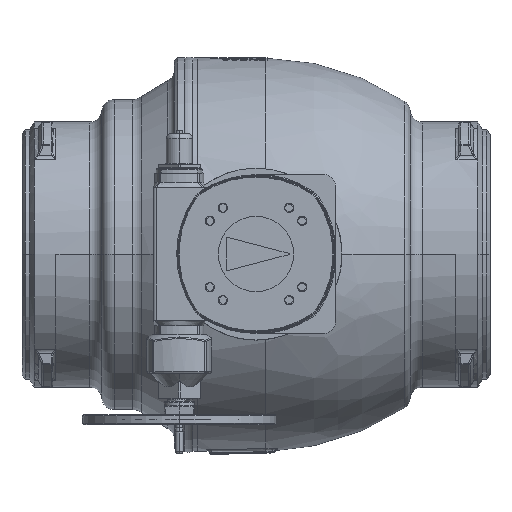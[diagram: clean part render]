
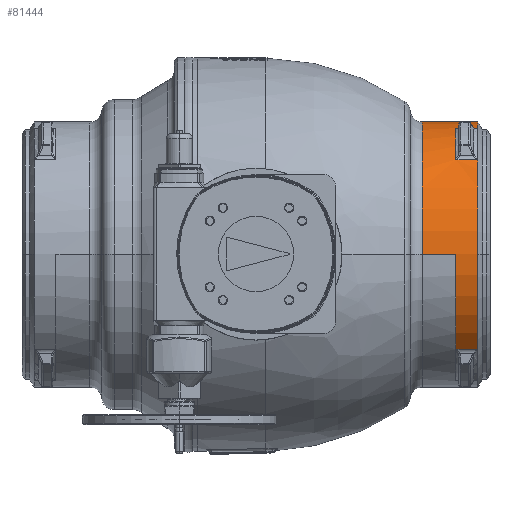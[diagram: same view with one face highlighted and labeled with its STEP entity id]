
A CAD part, top view. The second image highlights one B-rep face of the part: STEP entity #81444.
In plain terms, the highlighted cylindrical face has radius 432 mm (diameter 864 mm), a partial arc.
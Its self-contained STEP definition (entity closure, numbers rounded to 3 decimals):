
#18340=CARTESIAN_POINT('',(722.278,0.,0.));
#18341=DIRECTION('',(-1.,0.,0.));
#18342=DIRECTION('',(0.,0.,1.));
#18343=AXIS2_PLACEMENT_3D('',#18340,#18341,#18342);
#18345=DIRECTION('',(-1.,0.,0.));
#18346=VECTOR('',#18345,71.238);
#18347=CARTESIAN_POINT('',(722.238,-308.937,
301.964));
#18348=LINE('',#18347,#18346);
#18349=CARTESIAN_POINT('',(541.693,0.,0.));
#18350=DIRECTION('',(1.,0.,0.));
#18351=DIRECTION('',(0.,0.,-1.));
#18352=AXIS2_PLACEMENT_3D('',#18349,#18350,#18351);
#18354=DIRECTION('',(-1.,0.,0.));
#18355=VECTOR('',#18354,71.238);
#18356=CARTESIAN_POINT('',(722.238,92.061,
-422.077));
#18357=LINE('',#18356,#18355);
#18358=DIRECTION('',(-1.,0.,0.));
#18359=VECTOR('',#18358,71.238);
#18360=CARTESIAN_POINT('',(722.238,308.937,301.964));
#18361=LINE('',#18360,#18359);
#18362=DIRECTION('',(-1.,0.,0.));
#18363=VECTOR('',#18362,71.238);
#18364=CARTESIAN_POINT('',(722.238,411.56,131.311));
#18365=LINE('',#18364,#18363);
#18371=DIRECTION('',(-1.,0.,0.));
#18372=VECTOR('',#18371,0.04);
#18373=CARTESIAN_POINT('',(722.278,0.,-432.));
#18374=LINE('',#18373,#18372);
#18379=DIRECTION('',(-1.,0.,0.));
#18380=VECTOR('',#18379,109.307);
#18381=CARTESIAN_POINT('',(651.,0.,-432.));
#18382=LINE('',#18381,#18380);
#18388=DIRECTION('',(-1.,0.,0.));
#18389=VECTOR('',#18388,109.307);
#18390=CARTESIAN_POINT('',(651.,0.,432.));
#18391=LINE('',#18390,#18389);
#18392=CARTESIAN_POINT('',(651.,0.,0.));
#18393=DIRECTION('',(-1.,0.,0.));
#18394=DIRECTION('',(0.,-0.715,0.699));
#18395=AXIS2_PLACEMENT_3D('',#18392,#18393,#18394);
#18401=CARTESIAN_POINT('',(722.238,0.,0.));
#18402=DIRECTION('',(1.,0.,0.));
#18403=DIRECTION('',(0.,0.,1.));
#18404=AXIS2_PLACEMENT_3D('',#18401,#18402,#18403);
#18406=DIRECTION('',(-1.,0.,0.));
#18407=VECTOR('',#18406,0.04);
#18408=CARTESIAN_POINT('',(722.278,0.,432.));
#18409=LINE('',#18408,#18407);
#18463=CARTESIAN_POINT('',(722.238,0.,0.));
#18464=DIRECTION('',(1.,0.,0.));
#18465=DIRECTION('',(0.,0.,-1.));
#18466=AXIS2_PLACEMENT_3D('',#18463,#18464,#18465);
#18814=CARTESIAN_POINT('',(722.238,92.061,
-422.077));
#18968=CARTESIAN_POINT('',(651.,92.061,-422.077));
#18970=CARTESIAN_POINT('',(651.,0.,0.));
#18971=DIRECTION('',(-1.,0.,0.));
#18972=DIRECTION('',(0.,0.213,-0.977));
#18973=AXIS2_PLACEMENT_3D('',#18970,#18971,#18972);
#44907=CARTESIAN_POINT('',(722.238,308.937,301.964));
#44969=CARTESIAN_POINT('',(651.,308.937,301.964));
#44971=CARTESIAN_POINT('',(651.,0.,0.));
#44972=DIRECTION('',(-1.,0.,0.));
#44973=DIRECTION('',(0.,0.715,0.699));
#44974=AXIS2_PLACEMENT_3D('',#44971,#44972,#44973);
#45120=CARTESIAN_POINT('',(651.,411.56,131.311));
#45236=CARTESIAN_POINT('',(722.238,411.56,131.311));
#45238=CARTESIAN_POINT('',(722.238,0.,0.));
#45239=DIRECTION('',(1.,0.,0.));
#45240=DIRECTION('',(0.,0.953,0.304));
#45241=AXIS2_PLACEMENT_3D('',#45238,#45239,#45240);
#46285=CARTESIAN_POINT('',(541.693,0.,432.));
#46286=CARTESIAN_POINT('',(541.693,0.,-432.));
#46287=VERTEX_POINT('',#46285);
#46288=VERTEX_POINT('',#46286);
#46313=CARTESIAN_POINT('',(722.278,0.,432.));
#46314=CARTESIAN_POINT('',(722.278,0.,-432.));
#46315=VERTEX_POINT('',#46313);
#46316=VERTEX_POINT('',#46314);
#46365=CARTESIAN_POINT('',(651.,0.,-432.));
#46366=VERTEX_POINT('',#46365);
#46367=CARTESIAN_POINT('',(651.,0.,432.));
#46368=VERTEX_POINT('',#46367);
#46369=CARTESIAN_POINT('',(651.,-308.937,301.964));
#46370=VERTEX_POINT('',#46369);
#46371=CARTESIAN_POINT('',(722.238,0.,432.));
#46372=CARTESIAN_POINT('',(722.238,-308.937,
301.964));
#46373=VERTEX_POINT('',#46371);
#46374=VERTEX_POINT('',#46372);
#46420=VERTEX_POINT('',#44969);
#46440=VERTEX_POINT('',#44907);
#46442=VERTEX_POINT('',#45236);
#46464=VERTEX_POINT('',#45120);
#46490=VERTEX_POINT('',#18968);
#46512=VERTEX_POINT('',#18814);
#46513=CARTESIAN_POINT('',(722.238,0.,-432.));
#46514=VERTEX_POINT('',#46513);
#81404=CARTESIAN_POINT('',(837.85,0.,0.));
#81405=DIRECTION('',(-1.,0.,0.));
#81406=DIRECTION('',(0.,0.,1.));
#81407=AXIS2_PLACEMENT_3D('',#81404,#81405,#81406);
#81408=CYLINDRICAL_SURFACE('',#81407,432.);
#81409=ORIENTED_EDGE('',*,*,#81394,.F.);
#81411=ORIENTED_EDGE('',*,*,#81410,.T.);
#81413=ORIENTED_EDGE('',*,*,#81412,.T.);
#81415=ORIENTED_EDGE('',*,*,#81414,.T.);
#81417=ORIENTED_EDGE('',*,*,#81416,.T.);
#81419=ORIENTED_EDGE('',*,*,#81418,.T.);
#81421=ORIENTED_EDGE('',*,*,#81420,.F.);
#81423=ORIENTED_EDGE('',*,*,#81422,.F.);
#81425=ORIENTED_EDGE('',*,*,#81424,.F.);
#81427=ORIENTED_EDGE('',*,*,#81426,.F.);
#81429=ORIENTED_EDGE('',*,*,#81428,.F.);
#81431=ORIENTED_EDGE('',*,*,#81430,.F.);
#81432=EDGE_LOOP('',(#81409,#81411,#81413,#81415,#81417,#81419,#81421,#81423,
#81425,#81427,#81429,#81431));
#81433=FACE_OUTER_BOUND('',#81432,.F.);
#81435=ORIENTED_EDGE('',*,*,#81434,.F.);
#81437=ORIENTED_EDGE('',*,*,#81436,.F.);
#81439=ORIENTED_EDGE('',*,*,#81438,.T.);
#81441=ORIENTED_EDGE('',*,*,#81440,.F.);
#81442=EDGE_LOOP('',(#81435,#81437,#81439,#81441));
#81443=FACE_BOUND('',#81442,.F.);
#81444=ADVANCED_FACE('',(#81433,#81443),#81408,.T.);
#18344=CIRCLE('',#18343,432.);
#18353=CIRCLE('',#18352,432.);
#18396=CIRCLE('',#18395,432.);
#18405=CIRCLE('',#18404,432.);
#18467=CIRCLE('',#18466,432.);
#18974=CIRCLE('',#18973,432.);
#44975=CIRCLE('',#44974,432.);
#45242=CIRCLE('',#45241,432.);
#81394=EDGE_CURVE('',#46315,#46316,#18344,.T.);
#81410=EDGE_CURVE('',#46315,#46373,#18409,.T.);
#81412=EDGE_CURVE('',#46373,#46374,#18405,.T.);
#81414=EDGE_CURVE('',#46374,#46370,#18348,.T.);
#81416=EDGE_CURVE('',#46370,#46368,#18396,.T.);
#81418=EDGE_CURVE('',#46368,#46287,#18391,.T.);
#81420=EDGE_CURVE('',#46288,#46287,#18353,.T.);
#81422=EDGE_CURVE('',#46366,#46288,#18382,.T.);
#81424=EDGE_CURVE('',#46490,#46366,#18974,.T.);
#81426=EDGE_CURVE('',#46512,#46490,#18357,.T.);
#81428=EDGE_CURVE('',#46514,#46512,#18467,.T.);
#81430=EDGE_CURVE('',#46316,#46514,#18374,.T.);
#81434=EDGE_CURVE('',#46440,#46420,#18361,.T.);
#81436=EDGE_CURVE('',#46442,#46440,#45242,.T.);
#81438=EDGE_CURVE('',#46442,#46464,#18365,.T.);
#81440=EDGE_CURVE('',#46420,#46464,#44975,.T.);
